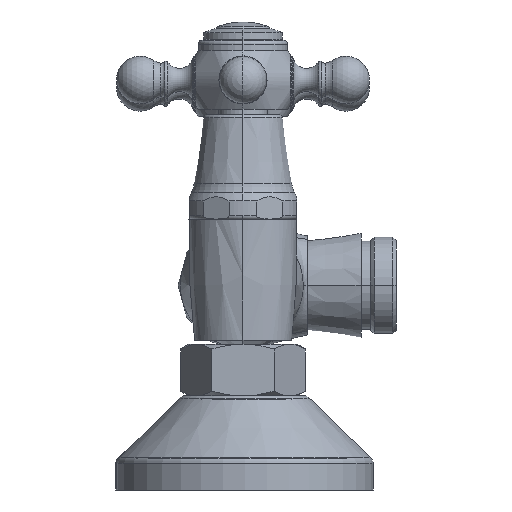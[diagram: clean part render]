
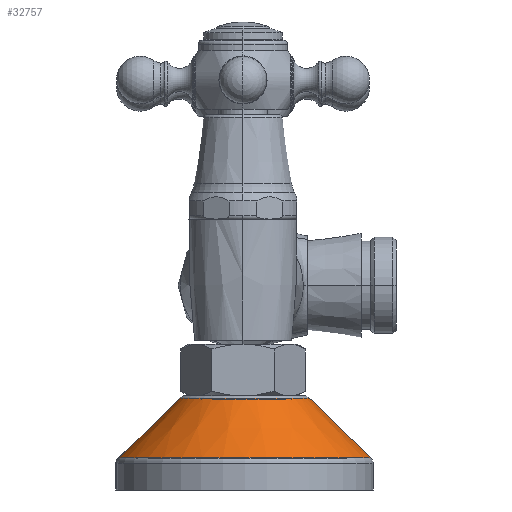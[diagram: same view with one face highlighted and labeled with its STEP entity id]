
A CAD part, left-side view. The second image highlights one B-rep face of the part: STEP entity #32757.
In plain terms, the highlighted conical face has half-angle 45.838 degrees and reference radius 25.535 mm.
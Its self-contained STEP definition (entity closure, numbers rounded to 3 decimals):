
#31979=DIRECTION('',(-0.717,0.697,0.));
#31980=VECTOR('',#31979,22.966);
#31981=CARTESIAN_POINT('',(-17.297,-24.722,0.));
#31982=LINE('',#31981,#31980);
#31983=DIRECTION('',(0.717,0.697,0.));
#31984=VECTOR('',#31983,22.966);
#31985=CARTESIAN_POINT('',(17.297,-24.722,0.));
#31986=LINE('',#31985,#31984);
#31987=CARTESIAN_POINT('',(0.,-24.722,0.));
#31988=DIRECTION('',(0.,1.,0.));
#31989=DIRECTION('',(-1.,0.,0.));
#31990=AXIS2_PLACEMENT_3D('',#31987,#31988,#31989);
#32002=CARTESIAN_POINT('',(0.,-8.722,0.));
#32003=DIRECTION('',(0.,1.,0.));
#32004=DIRECTION('',(-1.,0.,0.));
#32005=AXIS2_PLACEMENT_3D('',#32002,#32003,#32004);
#32184=CARTESIAN_POINT('',(-17.297,-24.722,0.));
#32186=VERTEX_POINT('',#32184);
#32187=CARTESIAN_POINT('',(-33.772,-8.722,0.));
#32188=VERTEX_POINT('',#32187);
#32204=CARTESIAN_POINT('',(17.297,-24.722,0.));
#32206=VERTEX_POINT('',#32204);
#32207=CARTESIAN_POINT('',(33.772,-8.722,0.));
#32208=VERTEX_POINT('',#32207);
#32745=CARTESIAN_POINT('',(0.,-16.722,0.));
#32746=DIRECTION('',(0.,1.,0.));
#32747=DIRECTION('',(-1.,0.,0.));
#32748=AXIS2_PLACEMENT_3D('',#32745,#32746,#32747);
#32749=CONICAL_SURFACE('',#32748,25.535,45.838);
#32750=ORIENTED_EDGE('',*,*,#32735,.T.);
#32752=ORIENTED_EDGE('',*,*,#32751,.T.);
#32753=ORIENTED_EDGE('',*,*,#32738,.F.);
#32754=ORIENTED_EDGE('',*,*,#32709,.F.);
#32755=EDGE_LOOP('',(#32750,#32752,#32753,#32754));
#32756=FACE_OUTER_BOUND('',#32755,.F.);
#32757=ADVANCED_FACE('',(#32756),#32749,.T.);
#31991=CIRCLE('',#31990,17.297);
#32006=CIRCLE('',#32005,33.772);
#32709=EDGE_CURVE('',#32186,#32206,#31991,.T.);
#32735=EDGE_CURVE('',#32186,#32188,#31982,.T.);
#32738=EDGE_CURVE('',#32206,#32208,#31986,.T.);
#32751=EDGE_CURVE('',#32188,#32208,#32006,.T.);
